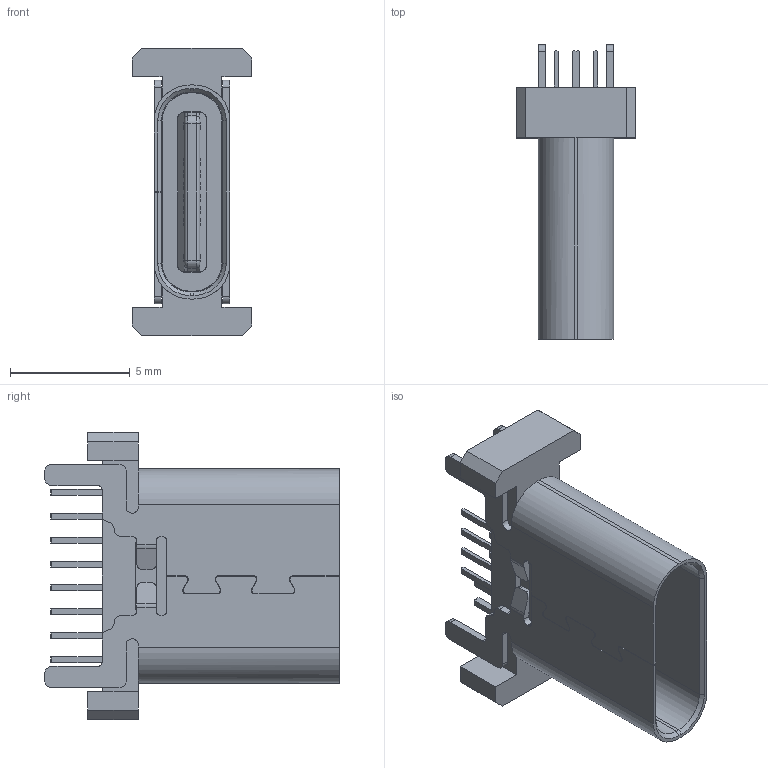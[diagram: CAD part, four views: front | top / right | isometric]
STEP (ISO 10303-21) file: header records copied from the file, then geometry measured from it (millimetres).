
FILE_DESCRIPTION (( 'STEP AP203' ), '1' );
FILE_NAME ('GT-USB-7038C.STEP', '2023-09-19T06:48:49', ( '' ), ( '' ), 'SwSTEP 2.0', 'SolidWorks 2023', '' );
FILE_SCHEMA (( 'CONFIG_CONTROL_DESIGN' ));
Length unit declared in the file: millimetre
Products named in the file (1): GT-USB-7038C
Bounding box: 5 x 12.3 x 12 mm (x, y, z)
Volume: 187.4 mm3; surface area: 689.3 mm2
Topology: 1 solids, 1 shells, 422 faces, 1201 edges, 786 vertices
Faces by surface type: plane 298, cylinder 112, bspline 4, torus 4, cone 4
Entity records: 13828 total; most frequent: CARTESIAN_POINT 2572, ORIENTED_EDGE 2402, DIRECTION 2263, EDGE_CURVE 1201, LINE 953, VECTOR 953, VERTEX_POINT 786, AXIS2_PLACEMENT_3D 655
